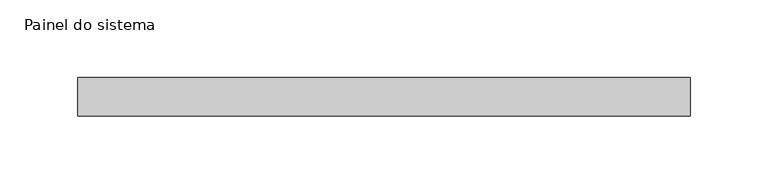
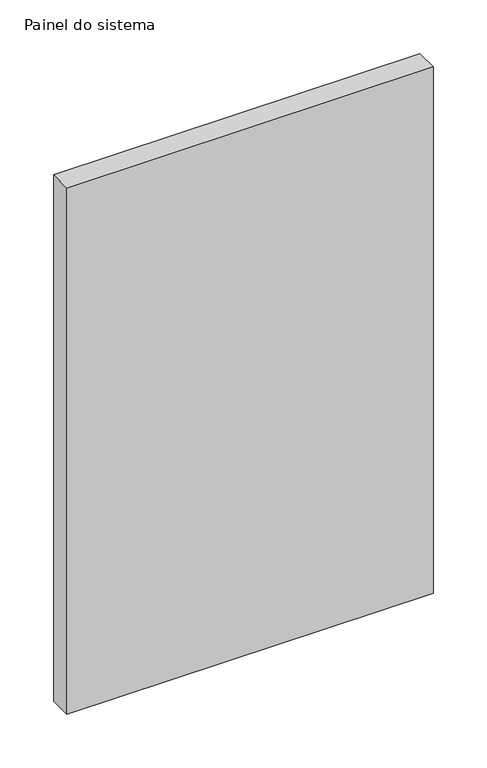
"""IFC4 building model written with IfcOpenShell, lengths in millimetres: plate geometry, Painel do sistema : Envidraçado."""

from ifc_helpers import new_model, si_unit, origin, origin_with_axes, place, context, project, spatial, polyline, outline, extrude, source, transform, mapped, element, save


def painel_do_sistema_f2a00e4a(model_context):
    return source(origin(), model_context, "Body", "SweptSolid", [
        extrude(outline(polyline([(197.5, 24.5), (-197.5, 24.5), (-197.5, 49.5), (197.5, 49.5), (197.5, 24.5)])), origin_with_axes(), (0.0, 0.0, 1.0), 600.0),
    ])


if __name__ == "__main__":
    model = new_model("IFC4")
    model_context = context("Model", 3, world=origin())
    ifc_project = project(units=[si_unit("LENGTHUNIT", "METRE", prefix="MILLI")], contexts=[model_context])
    site = spatial("IfcSite", under=ifc_project)
    building = spatial("IfcBuilding", under=site)
    placement = place(None, origin())
    painel_do_sistema_shape = painel_do_sistema_f2a00e4a(model_context)
    element("IfcPlate", 1, ObjectType="Painel do sistema : Envidraçado", at=placement, inside=building, context=model_context, shape_type="MappedRepresentation", body=[
        mapped(painel_do_sistema_shape, transform((0.0, 0.0, 0.0), x_axis=(1.0, 0.0, 0.0), y_axis=(0.0, 1.0, 0.0), z_axis=(0.0, 0.0, 1.0))),
    ])
    save(model, "model.ifc")
